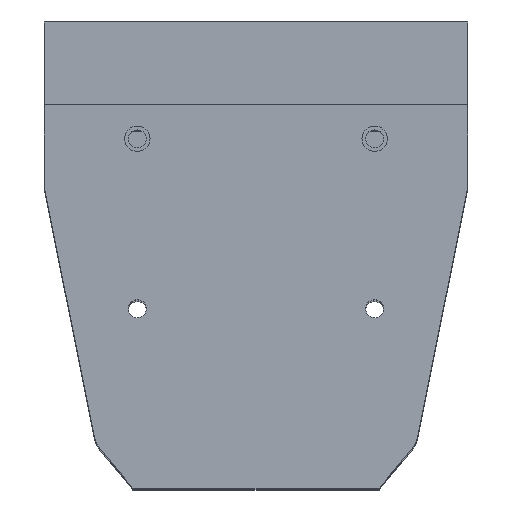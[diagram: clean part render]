
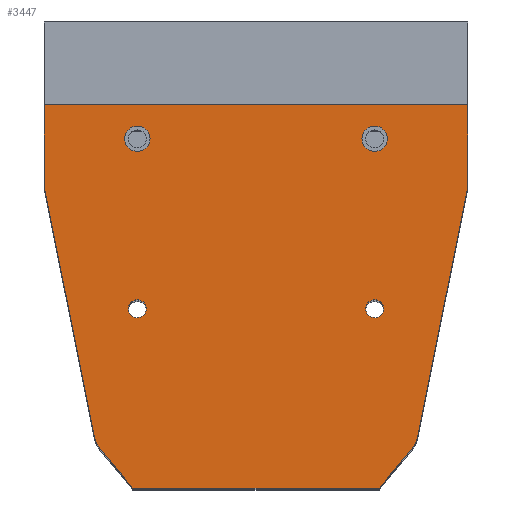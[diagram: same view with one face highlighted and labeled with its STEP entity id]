
A CAD part, top view. The second image highlights one B-rep face of the part: STEP entity #3447.
In plain terms, the highlighted planar face has unit normal (0, 0, 1).
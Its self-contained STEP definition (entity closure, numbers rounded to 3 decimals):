
#484=DIRECTION('',(0.,1.,0.));
#485=VECTOR('',#484,19.207);
#486=CARTESIAN_POINT('',(50.,-13.157,103.8));
#487=LINE('',#486,#485);
#488=DIRECTION('',(0.197,0.98,0.));
#489=VECTOR('',#488,60.756);
#490=CARTESIAN_POINT('',(38.043,-72.725,103.8));
#491=LINE('',#490,#489);
#492=CARTESIAN_POINT('',(33.373,-71.788,103.8));
#493=DIRECTION('',(0.,0.,1.));
#494=DIRECTION('',(0.767,-0.641,0.));
#495=AXIS2_PLACEMENT_3D('',#492,#493,#494);
#497=DIRECTION('',(0.641,0.767,0.));
#498=VECTOR('',#497,12.42);
#499=CARTESIAN_POINT('',(29.065,-84.373,103.8));
#500=LINE('',#499,#498);
#501=DIRECTION('',(1.,0.,0.));
#502=VECTOR('',#501,58.129);
#503=CARTESIAN_POINT('',(-29.065,-84.373,103.8));
#504=LINE('',#503,#502);
#505=DIRECTION('',(0.641,-0.767,0.));
#506=VECTOR('',#505,12.42);
#507=CARTESIAN_POINT('',(-37.028,-74.842,103.8));
#508=LINE('',#507,#506);
#509=CARTESIAN_POINT('',(-33.373,-71.788,103.8));
#510=DIRECTION('',(0.,0.,1.));
#511=DIRECTION('',(-0.98,-0.197,0.));
#512=AXIS2_PLACEMENT_3D('',#509,#510,#511);
#514=DIRECTION('',(0.197,-0.98,0.));
#515=VECTOR('',#514,60.756);
#516=CARTESIAN_POINT('',(-50.,-13.157,103.8));
#517=LINE('',#516,#515);
#518=DIRECTION('',(0.,-1.,0.));
#519=VECTOR('',#518,19.207);
#520=CARTESIAN_POINT('',(-50.,6.05,103.8));
#521=LINE('',#520,#519);
#522=DIRECTION('',(-1.,0.,0.));
#523=VECTOR('',#522,100.);
#524=CARTESIAN_POINT('',(50.,6.05,103.8));
#525=LINE('',#524,#523);
#526=CARTESIAN_POINT('',(-28.,-1.95,103.8));
#527=DIRECTION('',(0.,0.,1.));
#528=DIRECTION('',(-1.,0.,0.));
#529=AXIS2_PLACEMENT_3D('',#526,#527,#528);
#531=CARTESIAN_POINT('',(-28.,-1.95,103.8));
#532=DIRECTION('',(0.,0.,1.));
#533=DIRECTION('',(1.,0.,0.));
#534=AXIS2_PLACEMENT_3D('',#531,#532,#533);
#536=CARTESIAN_POINT('',(28.,-1.95,103.8));
#537=DIRECTION('',(0.,0.,1.));
#538=DIRECTION('',(-1.,0.,0.));
#539=AXIS2_PLACEMENT_3D('',#536,#537,#538);
#541=CARTESIAN_POINT('',(28.,-1.95,103.8));
#542=DIRECTION('',(0.,0.,1.));
#543=DIRECTION('',(1.,0.,0.));
#544=AXIS2_PLACEMENT_3D('',#541,#542,#543);
#546=CARTESIAN_POINT('',(28.,-42.05,103.8));
#547=DIRECTION('',(0.,0.,1.));
#548=DIRECTION('',(-1.,0.,0.));
#549=AXIS2_PLACEMENT_3D('',#546,#547,#548);
#551=CARTESIAN_POINT('',(28.,-42.05,103.8));
#552=DIRECTION('',(0.,0.,1.));
#553=DIRECTION('',(1.,0.,0.));
#554=AXIS2_PLACEMENT_3D('',#551,#552,#553);
#556=CARTESIAN_POINT('',(-28.,-42.05,103.8));
#557=DIRECTION('',(0.,0.,1.));
#558=DIRECTION('',(-1.,0.,0.));
#559=AXIS2_PLACEMENT_3D('',#556,#557,#558);
#561=CARTESIAN_POINT('',(-28.,-42.05,103.8));
#562=DIRECTION('',(0.,0.,1.));
#563=DIRECTION('',(1.,0.,0.));
#564=AXIS2_PLACEMENT_3D('',#561,#562,#563);
#2462=CARTESIAN_POINT('',(50.,-13.157,103.8));
#2463=CARTESIAN_POINT('',(50.,6.05,103.8));
#2464=VERTEX_POINT('',#2462);
#2465=VERTEX_POINT('',#2463);
#2466=CARTESIAN_POINT('',(-50.,6.05,103.8));
#2467=VERTEX_POINT('',#2466);
#2468=CARTESIAN_POINT('',(-50.,-13.157,103.8));
#2469=VERTEX_POINT('',#2468);
#2470=CARTESIAN_POINT('',(-38.043,-72.725,103.8));
#2471=VERTEX_POINT('',#2470);
#2472=CARTESIAN_POINT('',(-37.028,-74.842,103.8));
#2473=VERTEX_POINT('',#2472);
#2474=CARTESIAN_POINT('',(-29.065,-84.373,103.8));
#2475=VERTEX_POINT('',#2474);
#2476=CARTESIAN_POINT('',(29.065,-84.373,103.8));
#2477=VERTEX_POINT('',#2476);
#2478=CARTESIAN_POINT('',(37.028,-74.842,103.8));
#2479=VERTEX_POINT('',#2478);
#2480=CARTESIAN_POINT('',(38.043,-72.725,103.8));
#2481=VERTEX_POINT('',#2480);
#2540=CARTESIAN_POINT('',(-31.,-1.95,103.8));
#2541=VERTEX_POINT('',#2540);
#2544=CARTESIAN_POINT('',(-25.,-1.95,103.8));
#2545=VERTEX_POINT('',#2544);
#2572=CARTESIAN_POINT('',(25.,-1.95,103.8));
#2573=VERTEX_POINT('',#2572);
#2576=CARTESIAN_POINT('',(31.,-1.95,103.8));
#2577=VERTEX_POINT('',#2576);
#2594=CARTESIAN_POINT('',(25.9,-42.05,103.8));
#2595=CARTESIAN_POINT('',(30.1,-42.05,103.8));
#2596=VERTEX_POINT('',#2594);
#2597=VERTEX_POINT('',#2595);
#2598=CARTESIAN_POINT('',(-30.1,-42.05,103.8));
#2599=CARTESIAN_POINT('',(-25.9,-42.05,103.8));
#2600=VERTEX_POINT('',#2598);
#2601=VERTEX_POINT('',#2599);
#3406=CARTESIAN_POINT('',(-50.,-1.95,103.8));
#3407=DIRECTION('',(0.,0.,1.));
#3408=DIRECTION('',(1.,0.,0.));
#3409=AXIS2_PLACEMENT_3D('',#3406,#3407,#3408);
#3410=PLANE('',#3409);
#3411=ORIENTED_EDGE('',*,*,#2932,.F.);
#3412=ORIENTED_EDGE('',*,*,#2915,.F.);
#3413=ORIENTED_EDGE('',*,*,#2900,.F.);
#3414=ORIENTED_EDGE('',*,*,#2885,.F.);
#3415=ORIENTED_EDGE('',*,*,#2870,.F.);
#3416=ORIENTED_EDGE('',*,*,#2855,.F.);
#3417=ORIENTED_EDGE('',*,*,#2840,.F.);
#3418=ORIENTED_EDGE('',*,*,#2825,.F.);
#3419=ORIENTED_EDGE('',*,*,#2810,.F.);
#3421=ORIENTED_EDGE('',*,*,#3420,.F.);
#3422=EDGE_LOOP('',(#3411,#3412,#3413,#3414,#3415,#3416,#3417,#3418,#3419,
#3421));
#3423=FACE_OUTER_BOUND('',#3422,.F.);
#3425=ORIENTED_EDGE('',*,*,#3424,.T.);
#3427=ORIENTED_EDGE('',*,*,#3426,.T.);
#3428=EDGE_LOOP('',(#3425,#3427));
#3429=FACE_BOUND('',#3428,.F.);
#3431=ORIENTED_EDGE('',*,*,#3430,.T.);
#3433=ORIENTED_EDGE('',*,*,#3432,.T.);
#3434=EDGE_LOOP('',(#3431,#3433));
#3435=FACE_BOUND('',#3434,.F.);
#3436=ORIENTED_EDGE('',*,*,#3396,.T.);
#3438=ORIENTED_EDGE('',*,*,#3437,.T.);
#3439=EDGE_LOOP('',(#3436,#3438));
#3440=FACE_BOUND('',#3439,.F.);
#3442=ORIENTED_EDGE('',*,*,#3441,.T.);
#3444=ORIENTED_EDGE('',*,*,#3443,.T.);
#3445=EDGE_LOOP('',(#3442,#3444));
#3446=FACE_BOUND('',#3445,.F.);
#3447=ADVANCED_FACE('',(#3423,#3429,#3435,#3440,#3446),#3410,.T.);
#496=CIRCLE('',#495,4.763);
#513=CIRCLE('',#512,4.763);
#530=CIRCLE('',#529,3.);
#535=CIRCLE('',#534,3.);
#540=CIRCLE('',#539,3.);
#545=CIRCLE('',#544,3.);
#550=CIRCLE('',#549,2.1);
#555=CIRCLE('',#554,2.1);
#560=CIRCLE('',#559,2.1);
#565=CIRCLE('',#564,2.1);
#2810=EDGE_CURVE('',#2467,#2469,#521,.T.);
#2825=EDGE_CURVE('',#2469,#2471,#517,.T.);
#2840=EDGE_CURVE('',#2471,#2473,#513,.T.);
#2855=EDGE_CURVE('',#2473,#2475,#508,.T.);
#2870=EDGE_CURVE('',#2475,#2477,#504,.T.);
#2885=EDGE_CURVE('',#2477,#2479,#500,.T.);
#2900=EDGE_CURVE('',#2479,#2481,#496,.T.);
#2915=EDGE_CURVE('',#2481,#2464,#491,.T.);
#2932=EDGE_CURVE('',#2464,#2465,#487,.T.);
#3396=EDGE_CURVE('',#2596,#2597,#550,.T.);
#3420=EDGE_CURVE('',#2465,#2467,#525,.T.);
#3424=EDGE_CURVE('',#2541,#2545,#530,.T.);
#3426=EDGE_CURVE('',#2545,#2541,#535,.T.);
#3430=EDGE_CURVE('',#2573,#2577,#540,.T.);
#3432=EDGE_CURVE('',#2577,#2573,#545,.T.);
#3437=EDGE_CURVE('',#2597,#2596,#555,.T.);
#3441=EDGE_CURVE('',#2600,#2601,#560,.T.);
#3443=EDGE_CURVE('',#2601,#2600,#565,.T.);
